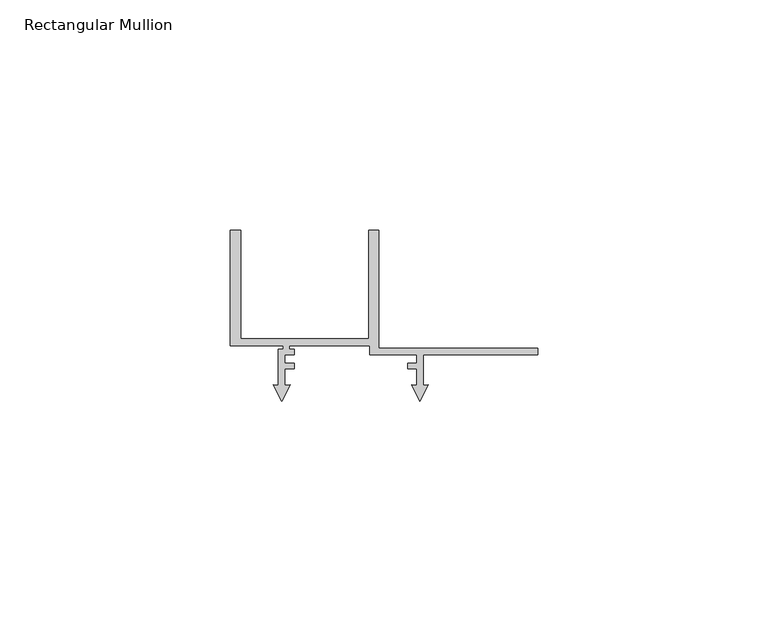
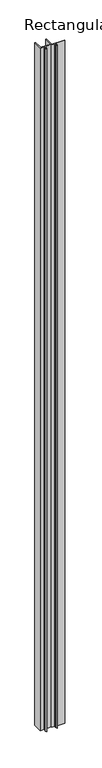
"""IFC4 building model written with IfcOpenShell, lengths in millimetres: member geometry, Rectangular Mullion : Renson_Linarte_LA-E25-01."""

from ifc_helpers import new_model, si_unit, frame, origin, place, context, project, spatial, polyline, outline, extrude, source, transform, mapped, element, save


def rectangular_mullion_d2d7e0ae(model_context):
    return source(origin(), model_context, "Body", "SweptSolid", [
        extrude(outline(polyline([(66.6, 68.1000494), (66.6, 66.6000494), (41.8, 66.6000494), (41.8, 60.0071867), (42.9255299, 60.1056578), (41.0999986, 56.5228474), (39.2744672, 60.1056581), (40.3999998, 60.0071867), (40.3999998, 63.599221), (38.4077357, 63.599221), (38.4077357, 64.8000494), (40.3999995, 64.8000494), (40.3999995, 66.6000494), (30.1732051, 66.6000494), (30.1732051, 68.6000494), (12.8, 68.6000494), (12.8, 67.8015754), (13.7880766, 67.8015754), (13.7880766, 66.6000494), (11.8091794, 66.6000494), (11.8091794, 64.8000494), (13.7875618, 64.8000494), (13.7875618, 63.5979618), (11.7999987, 63.5979618), (11.7999987, 60.0038712), (12.9157351, 60.1014855), (11.0999986, 56.537898), (9.284262, 60.1014855), (10.3999985, 60.0038712), (10.3999985, 67.8015754), (11.4, 67.8015754), (11.4, 68.6000494), (0.0, 68.6000494), (0.0, 93.6000494), (2.2, 93.6000494), (2.2, 70.1000494), (30.0, 70.1000494), (30.0, 93.6000494), (32.2, 93.6000494), (32.2, 68.1000494), (66.6, 68.1000494)])), frame((0.0, 0.0, -2000.0), z_axis=(0.0, 0.0, 1.0), x_axis=(1.0, 0.0, 0.0)), (0.0, 0.0, 1.0), 2000.0),
    ])


if __name__ == "__main__":
    model = new_model("IFC4")
    model_context = context("Model", 3, world=origin())
    ifc_project = project(units=[si_unit("LENGTHUNIT", "METRE", prefix="MILLI")], contexts=[model_context])
    site = spatial("IfcSite", under=ifc_project)
    building = spatial("IfcBuilding", under=site)
    placement = place(None, origin())
    rectangular_mullion_shape = rectangular_mullion_d2d7e0ae(model_context)
    element("IfcMember", 1, ObjectType="Rectangular Mullion : Renson_Linarte_LA-E25-01", at=placement, inside=building, context=model_context, shape_type="MappedRepresentation", body=[
        mapped(rectangular_mullion_shape, transform((0.0, 0.0, 0.0), x_axis=(1.0, 0.0, 0.0), y_axis=(0.0, 1.0, 0.0), z_axis=(0.0, 0.0, 1.0))),
    ])
    save(model, "model.ifc")
